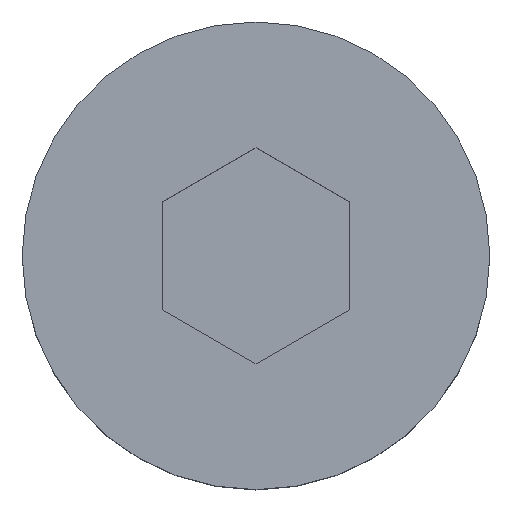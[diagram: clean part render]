
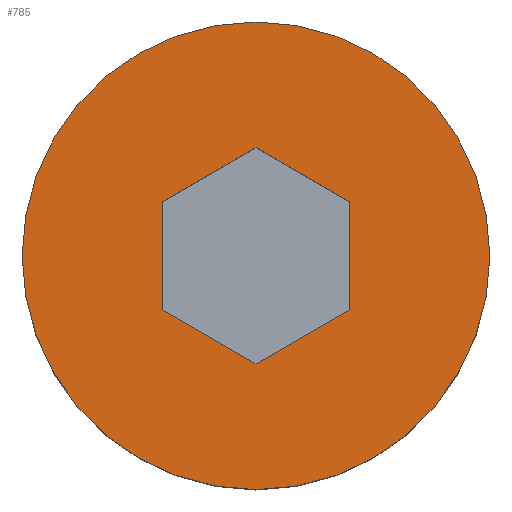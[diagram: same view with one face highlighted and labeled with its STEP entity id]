
A CAD part, top view. The second image highlights one B-rep face of the part: STEP entity #785.
In plain terms, the highlighted planar face has unit normal (0, 0, 1).
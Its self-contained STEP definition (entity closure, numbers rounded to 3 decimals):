
#25 = DIRECTION ( 'NONE',  ( 0., 1., 0. ) ) ;
#48 = AXIS2_PLACEMENT_3D ( 'NONE', #1031, #375, #311 ) ;
#69 = AXIS2_PLACEMENT_3D ( 'NONE', #200, #894, #1120 ) ;
#80 = CARTESIAN_POINT ( 'NONE',  ( 4., -2.309, 8. ) ) ;
#104 = CARTESIAN_POINT ( 'NONE',  ( 5.5, -7.794, 8. ) ) ;
#109 = CARTESIAN_POINT ( 'NONE',  ( 10., 0., 8. ) ) ;
#115 = CARTESIAN_POINT ( 'NONE',  ( 0., 4.619, 8. ) ) ;
#120 = DIRECTION ( 'NONE',  ( -1., 0., 0. ) ) ;
#129 = DIRECTION ( 'NONE',  ( 0., 0., -1. ) ) ;
#131 = FACE_BOUND ( 'NONE', #435, .T. ) ;
#166 = CARTESIAN_POINT ( 'NONE',  ( 10., 0., 8. ) ) ;
#200 = CARTESIAN_POINT ( 'NONE',  ( 0., 0., 8. ) ) ;
#203 = PLANE ( 'NONE',  #1137 ) ;
#215 = CARTESIAN_POINT ( 'NONE',  ( 9.5, -0.866, 8. ) ) ;
#284 = LINE ( 'NONE', #104, #301 ) ;
#292 = DIRECTION ( 'NONE',  ( -0.866, 0.5, 0. ) ) ;
#301 = VECTOR ( 'NONE', #977, 1000. ) ;
#311 = DIRECTION ( 'NONE',  ( 1., 0., 0. ) ) ;
#346 = CIRCLE ( 'NONE', #48, 10. ) ;
#369 = DIRECTION ( 'NONE',  ( 0.866, 0.5, 0. ) ) ;
#375 = DIRECTION ( 'NONE',  ( 0., 0., 1. ) ) ;
#378 = CIRCLE ( 'NONE', #69, 10. ) ;
#435 = EDGE_LOOP ( 'NONE', ( #663, #702, #704, #721, #730, #733 ) ) ;
#471 = CARTESIAN_POINT ( 'NONE',  ( 5.5, 7.794, 8. ) ) ;
#476 = CARTESIAN_POINT ( 'NONE',  ( 9.5, 0.866, 8. ) ) ;
#496 = CARTESIAN_POINT ( 'NONE',  ( -4., 2.309, 8. ) ) ;
#515 = CARTESIAN_POINT ( 'NONE',  ( 0., -4.619, 8. ) ) ;
#561 = EDGE_CURVE ( 'NONE', #1028, #1074, #378, .T. ) ;
#613 = CARTESIAN_POINT ( 'NONE',  ( -4., -2.309, 8. ) ) ;
#616 = EDGE_CURVE ( 'NONE', #1074, #1028, #346, .T. ) ;
#620 = EDGE_CURVE ( 'NONE', #798, #1193, #826, .T. ) ;
#623 = ORIENTED_EDGE ( 'NONE', *, *, #561, .T. ) ;
#625 = ORIENTED_EDGE ( 'NONE', *, *, #616, .T. ) ;
#628 = EDGE_CURVE ( 'NONE', #1136, #798, #847, .T. ) ;
#631 = EDGE_CURVE ( 'NONE', #1020, #1136, #1085, .T. ) ;
#636 = EDGE_CURVE ( 'NONE', #1110, #1020, #835, .T. ) ;
#641 = DIRECTION ( 'NONE',  ( -0.866, -0.5, 0. ) ) ;
#644 = EDGE_CURVE ( 'NONE', #839, #1110, #284, .T. ) ;
#651 = EDGE_CURVE ( 'NONE', #1193, #839, #1040, .T. ) ;
#663 = ORIENTED_EDGE ( 'NONE', *, *, #620, .F. ) ;
#702 = ORIENTED_EDGE ( 'NONE', *, *, #628, .F. ) ;
#704 = ORIENTED_EDGE ( 'NONE', *, *, #631, .F. ) ;
#721 = ORIENTED_EDGE ( 'NONE', *, *, #636, .F. ) ;
#730 = ORIENTED_EDGE ( 'NONE', *, *, #644, .F. ) ;
#733 = ORIENTED_EDGE ( 'NONE', *, *, #651, .F. ) ;
#785 = ADVANCED_FACE ( 'NONE', ( #790, #131 ), #203, .F. ) ;
#790 = FACE_OUTER_BOUND ( 'NONE', #852, .T. ) ;
#798 = VERTEX_POINT ( 'NONE', #115 ) ;
#801 = CARTESIAN_POINT ( 'NONE',  ( -10., 0., 8. ) ) ;
#826 = LINE ( 'NONE', #471, #836 ) ;
#835 = LINE ( 'NONE', #476, #1042 ) ;
#836 = VECTOR ( 'NONE', #641, 1000. ) ;
#839 = VERTEX_POINT ( 'NONE', #613 ) ;
#847 = LINE ( 'NONE', #215, #1083 ) ;
#852 = EDGE_LOOP ( 'NONE', ( #623, #625 ) ) ;
#894 = DIRECTION ( 'NONE',  ( 0., 0., 1. ) ) ;
#977 = DIRECTION ( 'NONE',  ( 0.866, -0.5, 0. ) ) ;
#979 = CARTESIAN_POINT ( 'NONE',  ( -4., 0., 8. ) ) ;
#981 = DIRECTION ( 'NONE',  ( 0., -1., 0. ) ) ;
#1020 = VERTEX_POINT ( 'NONE', #80 ) ;
#1028 = VERTEX_POINT ( 'NONE', #166 ) ;
#1031 = CARTESIAN_POINT ( 'NONE',  ( 0., 0., 8. ) ) ;
#1035 = CARTESIAN_POINT ( 'NONE',  ( 4., 2.309, 8. ) ) ;
#1040 = LINE ( 'NONE', #979, #1079 ) ;
#1042 = VECTOR ( 'NONE', #369, 1000. ) ;
#1069 = VECTOR ( 'NONE', #25, 1000. ) ;
#1074 = VERTEX_POINT ( 'NONE', #801 ) ;
#1075 = CARTESIAN_POINT ( 'NONE',  ( 4., 0., 8. ) ) ;
#1079 = VECTOR ( 'NONE', #981, 1000. ) ;
#1083 = VECTOR ( 'NONE', #292, 1000. ) ;
#1085 = LINE ( 'NONE', #1075, #1069 ) ;
#1110 = VERTEX_POINT ( 'NONE', #515 ) ;
#1120 = DIRECTION ( 'NONE',  ( 1., 0., 0. ) ) ;
#1136 = VERTEX_POINT ( 'NONE', #1035 ) ;
#1137 = AXIS2_PLACEMENT_3D ( 'NONE', #109, #129, #120 ) ;
#1193 = VERTEX_POINT ( 'NONE', #496 ) ;
